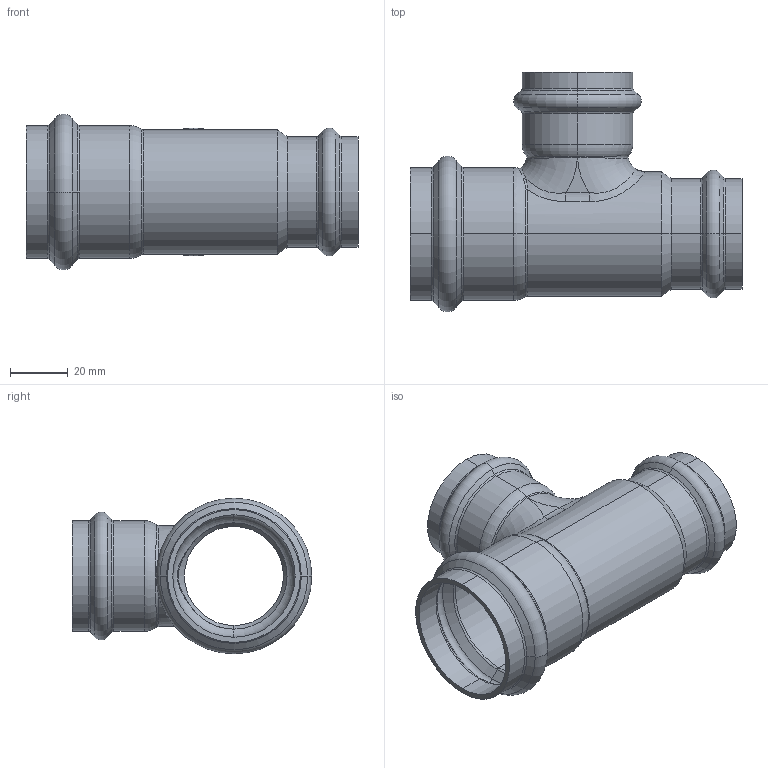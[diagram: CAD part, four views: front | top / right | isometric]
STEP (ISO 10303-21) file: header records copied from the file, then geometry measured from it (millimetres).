
FILE_DESCRIPTION (( 'STEP AP203' ), '1' );
FILE_NAME ('SP5130 Ø42-35-35.STEP', '2017-04-25T15:12:32', ( '' ), ( '' ), 'SwSTEP 2.0', 'SolidWorks 2016', '' );
FILE_SCHEMA (( 'CONFIG_CONTROL_DESIGN' ));
Length unit declared in the file: millimetre
Products named in the file (1): SP5130 Ø42-35-35
Bounding box: 115 x 82.95 x 53.9 mm (x, y, z)
Volume: 39243.7 mm3; surface area: 40167.6 mm2
Topology: 1 solids, 1 shells, 136 faces, 299 edges, 162 vertices
Faces by surface type: torus 53, cylinder 35, cone 30, bspline 13, plane 5
Entity records: 5705 total; most frequent: CARTESIAN_POINT 2651, DIRECTION 702, ORIENTED_EDGE 594, AXIS2_PLACEMENT_3D 318, EDGE_CURVE 297, CIRCLE 194, VERTEX_POINT 162, EDGE_LOOP 139
